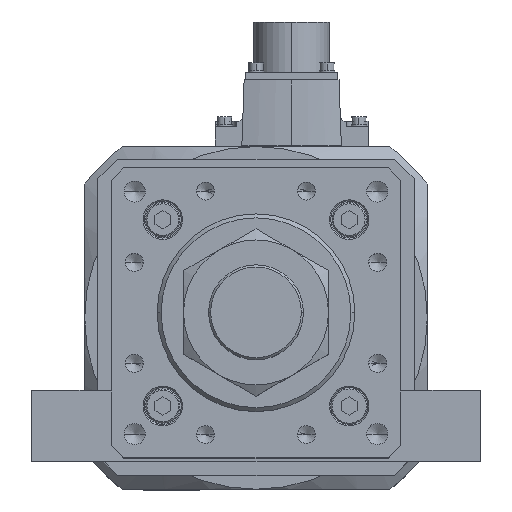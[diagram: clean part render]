
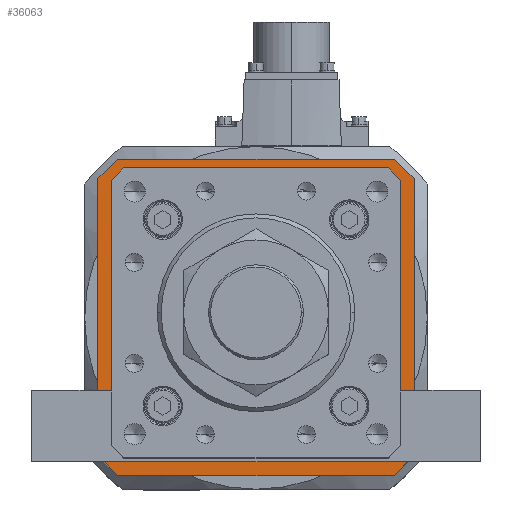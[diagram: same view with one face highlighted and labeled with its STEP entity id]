
A CAD part, top view. The second image highlights one B-rep face of the part: STEP entity #36063.
In plain terms, the highlighted planar face has unit normal (0, 0, 1).
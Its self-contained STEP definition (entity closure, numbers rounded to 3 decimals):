
#181 = DIRECTION ( 'NONE',  ( -0.707, 0.707, 0. ) ) ;
#1116 = ORIENTED_EDGE ( 'NONE', *, *, #6054, .F. ) ;
#1157 = CARTESIAN_POINT ( 'NONE',  ( -53.646, -49.446, -119. ) ) ;
#1379 = DIRECTION ( 'NONE',  ( 1., 0., 0. ) ) ;
#1555 = CARTESIAN_POINT ( 'NONE',  ( -49.8, -53.5, -119. ) ) ;
#1792 = CARTESIAN_POINT ( 'NONE',  ( 52.5, 60., -119. ) ) ;
#1871 = DIRECTION ( 'NONE',  ( -0.707, -0.707, 0. ) ) ;
#2427 = VERTEX_POINT ( 'NONE', #30367 ) ;
#2794 = CARTESIAN_POINT ( 'NONE',  ( 49.8, 53.5, -119. ) ) ;
#2923 = VERTEX_POINT ( 'NONE', #32872 ) ;
#2954 = ORIENTED_EDGE ( 'NONE', *, *, #6169, .T. ) ;
#3679 = EDGE_CURVE ( 'NONE', #20102, #6834, #8693, .T. ) ;
#4094 = ORIENTED_EDGE ( 'NONE', *, *, #16420, .T. ) ;
#5200 = LINE ( 'NONE', #8482, #22800 ) ;
#5299 = CARTESIAN_POINT ( 'NONE',  ( 53.646, 49.446, -119. ) ) ;
#5472 = VECTOR ( 'NONE', #12800, 1000. ) ;
#5541 = EDGE_CURVE ( 'NONE', #9903, #7167, #15435, .T. ) ;
#5909 = DIRECTION ( 'NONE',  ( 1., 0., 0. ) ) ;
#6054 = EDGE_CURVE ( 'NONE', #12737, #2923, #32494, .T. ) ;
#6146 = CARTESIAN_POINT ( 'NONE',  ( 49.446, -53.646, -119. ) ) ;
#6169 = EDGE_CURVE ( 'NONE', #27907, #12905, #5200, .T. ) ;
#6273 = CARTESIAN_POINT ( 'NONE',  ( -53.5, -49.593, -119. ) ) ;
#6342 = DIRECTION ( 'NONE',  ( 0.707, -0.707, 0. ) ) ;
#6406 = LINE ( 'NONE', #1157, #5472 ) ;
#6621 = EDGE_CURVE ( 'NONE', #17289, #15657, #30186, .T. ) ;
#6834 = VERTEX_POINT ( 'NONE', #23634 ) ;
#6844 = CARTESIAN_POINT ( 'NONE',  ( -53.5, 49.593, -119. ) ) ;
#6928 = VECTOR ( 'NONE', #23866, 1000. ) ;
#7167 = VERTEX_POINT ( 'NONE', #13140 ) ;
#7518 = VECTOR ( 'NONE', #181, 1000. ) ;
#7888 = ORIENTED_EDGE ( 'NONE', *, *, #21331, .F. ) ;
#8194 = FACE_BOUND ( 'NONE', #14890, .T. ) ;
#8482 = CARTESIAN_POINT ( 'NONE',  ( -53.5, 49.8, -119. ) ) ;
#8693 = LINE ( 'NONE', #21655, #31322 ) ;
#9112 = EDGE_CURVE ( 'NONE', #23723, #17289, #35102, .T. ) ;
#9903 = VERTEX_POINT ( 'NONE', #29726 ) ;
#10353 = DIRECTION ( 'NONE',  ( 0.707, 0.707, 0. ) ) ;
#10356 = CARTESIAN_POINT ( 'NONE',  ( 53.5, 49.593, -119. ) ) ;
#10372 = AXIS2_PLACEMENT_3D ( 'NONE', #24793, #36622, #1379 ) ;
#10684 = CARTESIAN_POINT ( 'NONE',  ( -60., 52.5, -119. ) ) ;
#10867 = EDGE_CURVE ( 'NONE', #20455, #15946, #14497, .T. ) ;
#10897 = VECTOR ( 'NONE', #24313, 1000. ) ;
#11411 = ORIENTED_EDGE ( 'NONE', *, *, #10867, .F. ) ;
#12085 = VECTOR ( 'NONE', #5909, 1000. ) ;
#12215 = VECTOR ( 'NONE', #31676, 1000. ) ;
#12737 = VERTEX_POINT ( 'NONE', #28587 ) ;
#12799 = EDGE_CURVE ( 'NONE', #13339, #20102, #30064, .T. ) ;
#12800 = DIRECTION ( 'NONE',  ( -0.707, 0.707, 0. ) ) ;
#12905 = VERTEX_POINT ( 'NONE', #6844 ) ;
#13140 = CARTESIAN_POINT ( 'NONE',  ( -49.593, -53.5, -119. ) ) ;
#13240 = LINE ( 'NONE', #6146, #34479 ) ;
#13339 = VERTEX_POINT ( 'NONE', #35583 ) ;
#13597 = LINE ( 'NONE', #32764, #18645 ) ;
#14141 = EDGE_CURVE ( 'NONE', #12905, #26213, #14248, .T. ) ;
#14248 = LINE ( 'NONE', #19246, #35946 ) ;
#14497 = LINE ( 'NONE', #10684, #12215 ) ;
#14681 = EDGE_LOOP ( 'NONE', ( #1116, #30102, #11411, #7888, #27788, #28018, #17467, #21235 ) ) ;
#14691 = DIRECTION ( 'NONE',  ( 0., 1., 0. ) ) ;
#14890 = EDGE_LOOP ( 'NONE', ( #4094, #37100, #35070, #36678, #32610, #36782, #2954, #15104 ) ) ;
#15104 = ORIENTED_EDGE ( 'NONE', *, *, #14141, .T. ) ;
#15435 = LINE ( 'NONE', #1555, #30701 ) ;
#15657 = VERTEX_POINT ( 'NONE', #37476 ) ;
#15847 = EDGE_CURVE ( 'NONE', #15657, #2427, #37228, .T. ) ;
#15946 = VERTEX_POINT ( 'NONE', #18076 ) ;
#16085 = EDGE_CURVE ( 'NONE', #7167, #27907, #6406, .T. ) ;
#16420 = EDGE_CURVE ( 'NONE', #26213, #13339, #28731, .T. ) ;
#17289 = VERTEX_POINT ( 'NONE', #30876 ) ;
#17467 = ORIENTED_EDGE ( 'NONE', *, *, #9112, .F. ) ;
#17880 = CARTESIAN_POINT ( 'NONE',  ( -52.5, -60., -119. ) ) ;
#18076 = CARTESIAN_POINT ( 'NONE',  ( -60., 52.5, -119. ) ) ;
#18645 = VECTOR ( 'NONE', #6342, 1000. ) ;
#18687 = PLANE ( 'NONE',  #10372 ) ;
#19246 = CARTESIAN_POINT ( 'NONE',  ( -49.446, 53.646, -119. ) ) ;
#19886 = VECTOR ( 'NONE', #31862, 1000. ) ;
#20102 = VERTEX_POINT ( 'NONE', #10356 ) ;
#20455 = VERTEX_POINT ( 'NONE', #23243 ) ;
#21235 = ORIENTED_EDGE ( 'NONE', *, *, #23839, .F. ) ;
#21331 = EDGE_CURVE ( 'NONE', #2427, #20455, #26472, .T. ) ;
#21655 = CARTESIAN_POINT ( 'NONE',  ( 53.5, -49.8, -119. ) ) ;
#21734 = DIRECTION ( 'NONE',  ( -1., 0., 0. ) ) ;
#22800 = VECTOR ( 'NONE', #14691, 1000. ) ;
#22850 = DIRECTION ( 'NONE',  ( 0.707, 0.707, 0. ) ) ;
#22906 = CARTESIAN_POINT ( 'NONE',  ( 60., 52.5, -119. ) ) ;
#23243 = CARTESIAN_POINT ( 'NONE',  ( -60., -52.5, -119. ) ) ;
#23634 = CARTESIAN_POINT ( 'NONE',  ( 53.5, -49.593, -119. ) ) ;
#23723 = VERTEX_POINT ( 'NONE', #22906 ) ;
#23839 = EDGE_CURVE ( 'NONE', #2923, #23723, #13597, .T. ) ;
#23866 = DIRECTION ( 'NONE',  ( 0., -1., 0. ) ) ;
#24214 = VECTOR ( 'NONE', #28781, 1000. ) ;
#24313 = DIRECTION ( 'NONE',  ( -1., 0., 0. ) ) ;
#24793 = CARTESIAN_POINT ( 'NONE',  ( 0., 0., -119. ) ) ;
#26213 = VERTEX_POINT ( 'NONE', #30127 ) ;
#26472 = LINE ( 'NONE', #17880, #7518 ) ;
#27788 = ORIENTED_EDGE ( 'NONE', *, *, #15847, .F. ) ;
#27907 = VERTEX_POINT ( 'NONE', #6273 ) ;
#28018 = ORIENTED_EDGE ( 'NONE', *, *, #6621, .F. ) ;
#28374 = CARTESIAN_POINT ( 'NONE',  ( 60., -52.5, -119. ) ) ;
#28587 = CARTESIAN_POINT ( 'NONE',  ( -52.5, 60., -119. ) ) ;
#28731 = LINE ( 'NONE', #2794, #12085 ) ;
#28781 = DIRECTION ( 'NONE',  ( 1., 0., 0. ) ) ;
#29090 = EDGE_CURVE ( 'NONE', #6834, #9903, #13240, .T. ) ;
#29726 = CARTESIAN_POINT ( 'NONE',  ( 49.593, -53.5, -119. ) ) ;
#29919 = DIRECTION ( 'NONE',  ( -0.707, -0.707, 0. ) ) ;
#30064 = LINE ( 'NONE', #5299, #19886 ) ;
#30102 = ORIENTED_EDGE ( 'NONE', *, *, #31382, .F. ) ;
#30127 = CARTESIAN_POINT ( 'NONE',  ( -49.593, 53.5, -119. ) ) ;
#30186 = LINE ( 'NONE', #28374, #37076 ) ;
#30226 = VECTOR ( 'NONE', #22850, 1000. ) ;
#30367 = CARTESIAN_POINT ( 'NONE',  ( -52.5, -60., -119. ) ) ;
#30701 = VECTOR ( 'NONE', #21734, 1000. ) ;
#30876 = CARTESIAN_POINT ( 'NONE',  ( 60., -52.5, -119. ) ) ;
#31322 = VECTOR ( 'NONE', #36339, 1000. ) ;
#31382 = EDGE_CURVE ( 'NONE', #15946, #12737, #33411, .T. ) ;
#31676 = DIRECTION ( 'NONE',  ( 0., 1., 0. ) ) ;
#31862 = DIRECTION ( 'NONE',  ( 0.707, -0.707, 0. ) ) ;
#32494 = LINE ( 'NONE', #1792, #24214 ) ;
#32610 = ORIENTED_EDGE ( 'NONE', *, *, #5541, .T. ) ;
#32764 = CARTESIAN_POINT ( 'NONE',  ( 60., 52.5, -119. ) ) ;
#32872 = CARTESIAN_POINT ( 'NONE',  ( 52.5, 60., -119. ) ) ;
#33411 = LINE ( 'NONE', #37685, #30226 ) ;
#34479 = VECTOR ( 'NONE', #29919, 1000. ) ;
#35070 = ORIENTED_EDGE ( 'NONE', *, *, #3679, .T. ) ;
#35102 = LINE ( 'NONE', #38174, #6928 ) ;
#35583 = CARTESIAN_POINT ( 'NONE',  ( 49.593, 53.5, -119. ) ) ;
#35946 = VECTOR ( 'NONE', #10353, 1000. ) ;
#36063 = ADVANCED_FACE ( 'NONE', ( #8194, #36850 ), #18687, .T. ) ;
#36339 = DIRECTION ( 'NONE',  ( 0., -1., 0. ) ) ;
#36622 = DIRECTION ( 'NONE',  ( 0., 0., 1. ) ) ;
#36678 = ORIENTED_EDGE ( 'NONE', *, *, #29090, .T. ) ;
#36782 = ORIENTED_EDGE ( 'NONE', *, *, #16085, .T. ) ;
#36850 = FACE_OUTER_BOUND ( 'NONE', #14681, .T. ) ;
#37076 = VECTOR ( 'NONE', #1871, 1000. ) ;
#37100 = ORIENTED_EDGE ( 'NONE', *, *, #12799, .T. ) ;
#37228 = LINE ( 'NONE', #38252, #10897 ) ;
#37476 = CARTESIAN_POINT ( 'NONE',  ( 52.5, -60., -119. ) ) ;
#37685 = CARTESIAN_POINT ( 'NONE',  ( -52.5, 60., -119. ) ) ;
#38174 = CARTESIAN_POINT ( 'NONE',  ( 60., 52.5, -119. ) ) ;
#38252 = CARTESIAN_POINT ( 'NONE',  ( 52.5, -60., -119. ) ) ;
